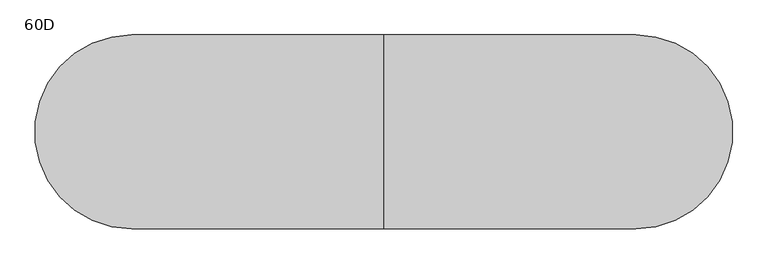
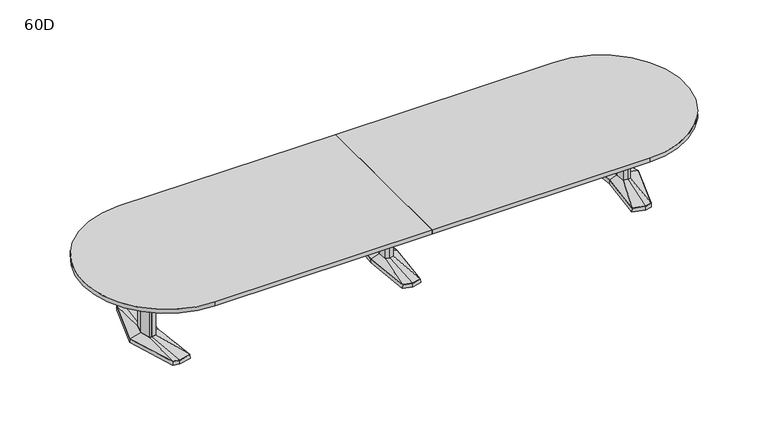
"""IFC4 building model written with IfcOpenShell, lengths in millimetres: furniture geometry, Coalesse_AM_Table_Conference_ETable2_Racetrack_18ft_AluminiumBase : 60D."""

from ifc_helpers import new_model, si_unit, point, frame, frame_2d, origin, place, context, project, spatial, polyline, circle_curve, trimmed, segment, composite_curve, outline, extrude, faceted_brep, source, transform, mapped, element, save
from ifc_brep_helpers import plane_surface, spline_surface, advanced_brep


def furniture_60d_119e4f8b(model_context):
    return source(origin(), model_context, "Body", "SolidModel", [
        faceted_brep([(-81.2333791, -433.8053819, 38.1), (0.0, -455.556576, 38.1), (81.2333791, -433.8053819, 38.1), (119.0564774, 0.0, 38.1), (81.2333791, 433.8053819, 38.1), (0.0, 455.556576, 38.1), (-81.2333791, 433.8053819, 38.1), (-119.0564774, 0.0, 38.1), (-82.7182795, -435.0512063, 3.175), (-120.65, 0.0, 3.175), (-82.7182795, 435.0512063, 3.175), (0.0, 457.2, 3.175), (82.7182795, 435.0512063, 3.175), (120.65, 0.0, 3.175), (82.7182795, -435.0512063, 3.175), (0.0, -457.2, 3.175), (0.0, 429.2617927, 3.175), (-77.9676806, 408.3850278, 3.175), (-74.7019821, 382.9646737, 3.175), (0.0, 402.9670094, 3.175), (74.7019821, 382.9646737, 3.175), (77.9676806, 408.3850278, 3.175), (0.0, -429.2617927, 3.175), (77.9676806, -408.3850278, 3.175), (74.7019821, -382.9646737, 3.175), (0.0, -402.9670094, 3.175), (-74.7019821, -382.9646737, 3.175), (-77.9676806, -408.3850278, 3.175), (-71.8574262, 114.6326257, 3.175), (-82.5426076, 0.0, 3.175), (-71.8574262, -114.6326257, 3.175), (0.0, -133.8761372, 3.175), (71.8574262, -114.6326257, 3.175), (82.5426076, 0.0, 3.175), (71.8574262, 114.6326257, 3.175), (0.0, 133.8761372, 3.175), (0.0, 429.2617927, 0.0), (77.9676806, 408.3850278, 0.0), (74.7019821, 382.9646737, 0.0), (0.0, 402.9670094, 0.0), (-74.7019821, 382.9646737, 0.0), (-77.9676806, 408.3850278, 0.0), (0.0, -429.2617927, 0.0), (-77.9676806, -408.3850278, 0.0), (-74.7019821, -382.9646737, 0.0), (0.0, -402.9670094, 0.0), (74.7019821, -382.9646737, 0.0), (77.9676806, -408.3850278, 0.0), (-71.8574262, 114.6326257, 0.0), (0.0, 133.8761372, 0.0), (71.8574262, 114.6326257, 0.0), (82.5426076, 0.0, 0.0), (71.8574262, -114.6326257, 0.0), (0.0, -133.8761372, 0.0), (-71.8574262, -114.6326257, 0.0), (-82.5426076, 0.0, 0.0)], [[[0, 1, 2, 3, 4, 5, 6, 7]], [[8, 9, 10, 11, 12, 13, 14, 15], [16, 17, 18, 19, 20, 21], [22, 23, 24, 25, 26, 27], [28, 29, 30, 31, 32, 33, 34, 35]], [[1, 0, 8, 15]], [[2, 1, 15, 14]], [[3, 2, 14, 13]], [[4, 3, 13, 12]], [[5, 4, 12, 11]], [[6, 5, 11, 10]], [[7, 6, 10, 9]], [[0, 7, 9, 8]], [[36, 37, 38, 39, 40, 41]], [[42, 43, 44, 45, 46, 47]], [[48, 49, 50, 51, 52, 53, 54, 55]], [[36, 41, 17, 16]], [[41, 40, 18, 17]], [[40, 39, 19, 18]], [[39, 38, 20, 19]], [[38, 37, 21, 20]], [[37, 36, 16, 21]], [[42, 47, 23, 22]], [[47, 46, 24, 23]], [[46, 45, 25, 24]], [[45, 44, 26, 25]], [[44, 43, 27, 26]], [[43, 42, 22, 27]], [[48, 55, 29, 28]], [[55, 54, 30, 29]], [[54, 53, 31, 30]], [[53, 52, 32, 31]], [[52, 51, 33, 32]], [[51, 50, 34, 33]], [[50, 49, 35, 34]], [[49, 48, 28, 35]]]),
        faceted_brep([(-36.3832834, 84.6900825, 698.5), (-44.2774487, 0.0, 698.5), (-36.3832834, -84.6900825, 698.5), (0.0, -94.4335728, 698.5), (36.3832834, -84.6900825, 698.5), (44.2774487, 0.0, 698.5), (36.3832834, 84.6900825, 698.5), (0.0, 94.4335728, 698.5), (-36.3832834, 84.6900825, 63.5), (0.0, 94.4335728, 63.5), (36.3832834, 84.6900825, 63.5), (44.2774487, 0.0, 63.5), (36.3832834, -84.6900825, 63.5), (0.0, -94.4335728, 63.5), (-36.3832834, -84.6900825, 63.5), (-44.2774487, 0.0, 63.5)], [[[0, 1, 2, 3, 4, 5, 6, 7]], [[8, 9, 10, 11, 12, 13, 14, 15]], [[1, 0, 8, 15]], [[2, 1, 15, 14]], [[3, 2, 14, 13]], [[4, 3, 13, 12]], [[5, 4, 12, 11]], [[6, 5, 11, 10]], [[7, 6, 10, 9]], [[0, 7, 9, 8]]]),
        advanced_brep(
        [(-36.3832834, 84.6900825, 63.5), (-44.2774487, 0.0, 63.5), (-36.3832834, -84.6900825, 63.5), (0.0, -94.4335728, 63.5), (36.3832834, -84.6900825, 63.5), (44.2774487, 0.0, 63.5), (36.3832834, 84.6900825, 63.5), (0.0, 94.4335728, 63.5), (-81.2333791, 433.8053819, 38.1), (0.0, 455.556576, 38.1), (81.2333791, 433.8053819, 38.1), (119.0564774, 0.0, 38.1), (81.2333791, -433.8053819, 38.1), (0.0, -455.556576, 38.1), (-81.2333791, -433.8053819, 38.1), (-119.0564774, 0.0, 38.1)],
        [
            (0, 1),
            (1, 2),
            (2, 3),
            (3, 4),
            (4, 5),
            (5, 6),
            (6, 7),
            (7, 0),
            (8, 9),
            (9, 10),
            (10, 11),
            (11, 12),
            (12, 13),
            (13, 14),
            (14, 15),
            (15, 8),
            (15, 1),
            (0, 8),
            (14, 2),
            (13, 3),
            (12, 4),
            (11, 5),
            (10, 6),
            (9, 7),
        ],
        [
            plane_surface(frame((0.0, 0.0, 63.5), z_axis=(0.0, 0.0, 1.0000000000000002), x_axis=(-0.9659615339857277, -0.25868574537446, 0.0))),
            plane_surface(frame((0.0, 0.0, 38.1), z_axis=(0.0, 0.0, -1.0000000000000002), x_axis=(-0.9659615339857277, -0.25868574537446, 0.0))),
            spline_surface(1, 1, [[(-81.2333791, 433.8053819, 38.1), (-36.3832834, 84.6900825, 63.5)], [(-119.0564774, 0.0, 38.1), (-44.2774487, 0.0, 63.5)]], [2, 2], [2, 2], [0.0, 1.0], [0.0, 1.0]),
            spline_surface(1, 1, [[(-119.0564774, 0.0, 38.1), (-44.2774487, 0.0, 63.5)], [(-81.2333791, -433.8053819, 38.1), (-36.3832834, -84.6900825, 63.5)]], [2, 2], [2, 2], [0.0, 1.0], [0.0, 1.0]),
            spline_surface(1, 1, [[(-81.2333791, -433.8053819, 38.1), (-36.3832834, -84.6900825, 63.5)], [(0.0, -455.556576, 38.1), (0.0, -94.4335728, 63.5)]], [2, 2], [2, 2], [0.0, 1.0], [0.0, 1.0]),
            spline_surface(1, 1, [[(0.0, -455.556576, 38.1), (0.0, -94.4335728, 63.5)], [(81.2333791, -433.8053819, 38.1), (36.3832834, -84.6900825, 63.5)]], [2, 2], [2, 2], [0.0, 1.0], [0.0, 1.0]),
            spline_surface(1, 1, [[(81.2333791, -433.8053819, 38.1), (36.3832834, -84.6900825, 63.5)], [(119.0564774, 0.0, 38.1), (44.2774487, 0.0, 63.5)]], [2, 2], [2, 2], [0.0, 1.0], [0.0, 1.0]),
            spline_surface(1, 1, [[(119.0564774, 0.0, 38.1), (44.2774487, 0.0, 63.5)], [(81.2333791, 433.8053819, 38.1), (36.3832834, 84.6900825, 63.5)]], [2, 2], [2, 2], [0.0, 1.0], [0.0, 1.0]),
            spline_surface(1, 1, [[(81.2333791, 433.8053819, 38.1), (36.3832834, 84.6900825, 63.5)], [(0.0, 455.556576, 38.1), (0.0, 94.4335728, 63.5)]], [2, 2], [2, 2], [0.0, 1.0], [0.0, 1.0]),
            spline_surface(1, 1, [[(0.0, 455.556576, 38.1), (0.0, 94.4335728, 63.5)], [(-81.2333791, 433.8053819, 38.1), (-36.3832834, 84.6900825, 63.5)]], [2, 2], [2, 2], [0.0, 1.0], [0.0, 1.0]),
        ],
        [
            (0, [[1, 2, 3, 4, 5, 6, 7, 8]]),
            (1, [[9, 10, 11, 12, 13, 14, 15, 16]]),
            (2, [[-16, 17, -1, 18]]),
            (3, [[-15, 19, -2, -17]]),
            (4, [[-14, 20, -3, -19]]),
            (5, [[-13, 21, -4, -20]]),
            (6, [[-12, 22, -5, -21]]),
            (7, [[-11, 23, -6, -22]]),
            (8, [[-10, 24, -7, -23]]),
            (9, [[-9, -18, -8, -24]]),
        ],
    ),
        faceted_brep([(2125.0306835, 455.5848221, 38.1), (2015.4531277, 426.2263816, 38.1), (2056.6163717, 0.0, 38.1), (2015.4531277, -426.2263816, 38.1), (2125.0306835, -455.5848221, 38.1), (2181.1570396, -440.5478297, 38.1), (2318.4684269, 0.0, 38.1), (2181.1570396, 440.5478297, 38.1), (2125.0306754, 457.2283104, 3.175), (2182.4124472, 441.8549756, 3.175), (2320.13125, 0.0, 3.175), (2182.4124472, -441.8549756, 3.175), (2125.0306754, -457.2283104, 3.175), (2013.74375, -427.4118891, 3.175), (2055.0214856, 0.0, 3.175), (2013.74375, 427.4118891, 3.175), (2128.620115, 428.3273875, 3.175), (2023.5718228, 402.1057253, 3.175), (2031.690518, 377.985069, 3.175), (2132.2095466, 401.0699529, 3.175), (2182.7691725, 387.524361, 3.175), (2181.9631061, 414.0360954, 3.175), (2128.620115, -428.3273875, 3.175), (2181.9631061, -414.0360954, 3.175), (2182.7691725, -387.524361, 3.175), (2132.2095466, -401.0699529, 3.175), (2031.690518, -377.985069, 3.175), (2023.5718228, -402.1057253, 3.175), (2255.2153621, 0.0, 3.175), (2222.9459611, 120.4193755, 3.175), (2174.2987222, 133.471665, 3.175), (2094.4180526, 119.4176561, 3.175), (2083.2868466, 0.0, 3.175), (2094.4180526, -119.4176561, 3.175), (2174.2987222, -133.471665, 3.175), (2222.9459611, -120.4193755, 3.175), (2128.620115, 428.3273875, 0.0), (2181.9631061, 414.0360954, 0.0), (2182.7691725, 387.524361, 0.0), (2132.2095466, 401.0699529, 0.0), (2031.690518, 377.985069, 0.0), (2023.5718228, 402.1057253, 0.0), (2128.620115, -428.3273875, 0.0), (2023.5718228, -402.1057253, 0.0), (2031.690518, -377.985069, 0.0), (2132.2095466, -401.0699529, 0.0), (2182.7691725, -387.524361, 0.0), (2181.9631061, -414.0360954, 0.0), (2255.2153621, 0.0, 0.0), (2222.9459611, -120.4193755, 0.0), (2174.2987222, -133.471665, 0.0), (2094.4180526, -119.4176561, 0.0), (2083.2868466, 0.0, 0.0), (2094.4180526, 119.4176561, 0.0), (2174.2987222, 133.471665, 0.0), (2222.9459611, 120.4193755, 0.0)], [[[0, 1, 2, 3, 4, 5, 6, 7]], [[8, 9, 10, 11, 12, 13, 14, 15], [16, 17, 18, 19, 20, 21], [22, 23, 24, 25, 26, 27], [28, 29, 30, 31, 32, 33, 34, 35]], [[7, 9, 8, 0]], [[6, 10, 9, 7]], [[5, 11, 10, 6]], [[4, 12, 11, 5]], [[3, 13, 12, 4]], [[2, 14, 13, 3]], [[1, 15, 14, 2]], [[0, 8, 15, 1]], [[36, 37, 38, 39, 40, 41]], [[42, 43, 44, 45, 46, 47]], [[48, 49, 50, 51, 52, 53, 54, 55]], [[36, 16, 21, 37]], [[37, 21, 20, 38]], [[38, 20, 19, 39]], [[39, 19, 18, 40]], [[40, 18, 17, 41]], [[41, 17, 16, 36]], [[42, 22, 27, 43]], [[43, 27, 26, 44]], [[44, 26, 25, 45]], [[45, 25, 24, 46]], [[46, 24, 23, 47]], [[47, 23, 22, 42]], [[48, 28, 35, 49]], [[49, 35, 34, 50]], [[50, 34, 33, 51]], [[51, 33, 32, 52]], [[52, 32, 31, 53]], [[53, 31, 30, 54]], [[54, 30, 29, 55]], [[55, 29, 28, 48]]]),
        faceted_brep([(2215.7710836, 0.0, 698.5), (2191.8358546, 89.3188359, 698.5), (2174.9824984, 93.8406728, 698.5), (2172.5826511, 94.4845635, 698.5), (2129.655146, 86.9320037, 698.5), (2121.5520056, 0.0, 698.5), (2129.655146, -86.9320037, 698.5), (2172.5826511, -94.4845635, 698.5), (2174.9824984, -93.8406728, 698.5), (2191.8358546, -89.3188359, 698.5), (2215.7710836, 0.0, 63.5), (2191.8358546, -89.3188359, 63.5), (2174.9824984, -93.8406728, 63.5), (2172.5826511, -94.4845635, 63.5), (2129.655146, -86.9320037, 63.5), (2121.5520056, 0.0, 63.5), (2129.655146, 86.9320037, 63.5), (2172.5826511, 94.4845635, 63.5), (2174.9824984, 93.8406728, 63.5), (2191.8358546, 89.3188359, 63.5)], [[[0, 1, 2, 3, 4, 5, 6, 7, 8, 9]], [[10, 11, 12, 13, 14, 15, 16, 17, 18, 19]], [[9, 11, 10, 0]], [[8, 12, 11, 9]], [[7, 13, 12, 8]], [[6, 14, 13, 7]], [[5, 15, 14, 6]], [[4, 16, 15, 5]], [[3, 17, 16, 4]], [[2, 18, 17, 3]], [[1, 19, 18, 2]], [[0, 10, 19, 1]]]),
        advanced_brep(
        [(2172.5826511, 94.4845635, 63.5), (2129.655146, 86.9320037, 63.5), (2121.5520056, 0.0, 63.5), (2129.655146, -86.9320037, 63.5), (2172.5826511, -94.4845635, 63.5), (2191.8358546, -89.3188359, 63.5), (2215.7710836, 0.0, 63.5), (2191.8358546, 89.3188359, 63.5), (2125.0306835, 455.5848221, 38.1), (2181.1570396, 440.5478297, 38.1), (2318.4684269, 0.0, 38.1), (2181.1570396, -440.5478297, 38.1), (2125.0306835, -455.5848221, 38.1), (2015.4531277, -426.2263816, 38.1), (2056.6163717, 0.0, 38.1), (2015.4531277, 426.2263816, 38.1)],
        [
            (0, 1),
            (1, 2),
            (2, 3),
            (3, 4),
            (4, 5),
            (5, 6),
            (6, 7),
            (7, 0),
            (8, 9),
            (9, 10),
            (10, 11),
            (11, 12),
            (12, 13),
            (13, 14),
            (14, 15),
            (15, 8),
            (8, 0),
            (7, 9),
            (6, 10),
            (5, 11),
            (4, 12),
            (3, 13),
            (2, 14),
            (1, 15),
        ],
        [
            plane_surface(frame((2165.6837991, 0.0, 63.5), z_axis=(0.0, 0.0, 1.0), x_axis=(-0.25884244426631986, -0.9659195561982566, 0.0))),
            plane_surface(frame((2127.2958125, 0.0, 38.1), z_axis=(0.0, 0.0, -1.0), x_axis=(-0.25884244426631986, -0.9659195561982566, 0.0))),
            spline_surface(1, 1, [[(2125.0306835, 455.5848221, 38.1), (2181.1570396, 440.5478297, 38.1)], [(2172.5826511, 94.4845635, 63.5), (2191.8358546, 89.3188359, 63.5)]], [2, 2], [2, 2], [0.0, 1.0], [0.0, 1.0]),
            spline_surface(1, 1, [[(2181.1570396, 440.5478297, 38.1), (2318.4684269, 0.0, 38.1)], [(2191.8358546, 89.3188359, 63.5), (2215.7710836, 0.0, 63.5)]], [2, 2], [2, 2], [0.0, 1.0], [0.0, 1.0]),
            spline_surface(1, 1, [[(2318.4684269, 0.0, 38.1), (2181.1570396, -440.5478297, 38.1)], [(2215.7710836, 0.0, 63.5), (2191.8358546, -89.3188359, 63.5)]], [2, 2], [2, 2], [0.0, 1.0], [0.0, 1.0]),
            spline_surface(1, 1, [[(2181.1570396, -440.5478297, 38.1), (2125.0306835, -455.5848221, 38.1)], [(2191.8358546, -89.3188359, 63.5), (2172.5826511, -94.4845635, 63.5)]], [2, 2], [2, 2], [0.0, 1.0], [0.0, 1.0]),
            spline_surface(1, 1, [[(2125.0306835, -455.5848221, 38.1), (2015.4531277, -426.2263816, 38.1)], [(2172.5826511, -94.4845635, 63.5), (2129.655146, -86.9320037, 63.5)]], [2, 2], [2, 2], [0.0, 1.0], [0.0, 1.0]),
            spline_surface(1, 1, [[(2015.4531277, -426.2263816, 38.1), (2056.6163717, 0.0, 38.1)], [(2129.655146, -86.9320037, 63.5), (2121.5520056, 0.0, 63.5)]], [2, 2], [2, 2], [0.0, 1.0], [0.0, 1.0]),
            spline_surface(1, 1, [[(2056.6163717, 0.0, 38.1), (2015.4531277, 426.2263816, 38.1)], [(2121.5520056, 0.0, 63.5), (2129.655146, 86.9320037, 63.5)]], [2, 2], [2, 2], [0.0, 1.0], [0.0, 1.0]),
            spline_surface(1, 1, [[(2015.4531277, 426.2263816, 38.1), (2125.0306835, 455.5848221, 38.1)], [(2129.655146, 86.9320037, 63.5), (2172.5826511, 94.4845635, 63.5)]], [2, 2], [2, 2], [0.0, 1.0], [0.0, 1.0]),
        ],
        [
            (0, [[1, 2, 3, 4, 5, 6, 7, 8]]),
            (1, [[9, 10, 11, 12, 13, 14, 15, 16]]),
            (2, [[17, -8, 18, -9]]),
            (3, [[-18, -7, 19, -10]]),
            (4, [[-19, -6, 20, -11]]),
            (5, [[-20, -5, 21, -12]]),
            (6, [[-21, -4, 22, -13]]),
            (7, [[-22, -3, 23, -14]]),
            (8, [[-23, -2, 24, -15]]),
            (9, [[-24, -1, -17, -16]]),
        ],
    ),
        faceted_brep([(-2125.0306835, 455.5848221, 38.1), (-2181.1570396, 440.5478297, 38.1), (-2318.4684269, 0.0, 38.1), (-2181.1570396, -440.5478297, 38.1), (-2125.0306835, -455.5848221, 38.1), (-2015.4531277, -426.2263816, 38.1), (-2056.6163717, 0.0, 38.1), (-2015.4531277, 426.2263816, 38.1), (-2125.0306754, 457.2283104, 3.175), (-2013.74375, 427.4118891, 3.175), (-2055.0214856, 0.0, 3.175), (-2013.74375, -427.4118891, 3.175), (-2125.0306754, -457.2283104, 3.175), (-2182.4124472, -441.8549756, 3.175), (-2320.13125, 0.0, 3.175), (-2182.4124472, 441.8549756, 3.175), (-2128.620115, 428.3273875, 3.175), (-2181.9631061, 414.0360954, 3.175), (-2182.7691725, 387.524361, 3.175), (-2132.2095466, 401.0699529, 3.175), (-2031.690518, 377.985069, 3.175), (-2023.5718228, 402.1057253, 3.175), (-2128.620115, -428.3273875, 3.175), (-2023.5718228, -402.1057253, 3.175), (-2031.690518, -377.985069, 3.175), (-2132.2095466, -401.0699529, 3.175), (-2182.7691725, -387.524361, 3.175), (-2181.9631061, -414.0360954, 3.175), (-2255.2153621, 0.0, 3.175), (-2222.9459611, -120.4193755, 3.175), (-2174.2987222, -133.471665, 3.175), (-2094.4180526, -119.4176561, 3.175), (-2083.2868466, 0.0, 3.175), (-2094.4180526, 119.4176561, 3.175), (-2174.2987222, 133.471665, 3.175), (-2222.9459611, 120.4193755, 3.175), (-2128.620115, 428.3273875, 0.0), (-2023.5718228, 402.1057253, 0.0), (-2031.690518, 377.985069, 0.0), (-2132.2095466, 401.0699529, 0.0), (-2182.7691725, 387.524361, 0.0), (-2181.9631061, 414.0360954, 0.0), (-2128.620115, -428.3273875, 0.0), (-2181.9631061, -414.0360954, 0.0), (-2182.7691725, -387.524361, 0.0), (-2132.2095466, -401.0699529, 0.0), (-2031.690518, -377.985069, 0.0), (-2023.5718228, -402.1057253, 0.0), (-2255.2153621, 0.0, 0.0), (-2222.9459611, 120.4193755, 0.0), (-2174.2987222, 133.471665, 0.0), (-2094.4180526, 119.4176561, 0.0), (-2083.2868466, 0.0, 0.0), (-2094.4180526, -119.4176561, 0.0), (-2174.2987222, -133.471665, 0.0), (-2222.9459611, -120.4193755, 0.0)], [[[0, 1, 2, 3, 4, 5, 6, 7]], [[8, 9, 10, 11, 12, 13, 14, 15], [16, 17, 18, 19, 20, 21], [22, 23, 24, 25, 26, 27], [28, 29, 30, 31, 32, 33, 34, 35]], [[1, 0, 8, 15]], [[2, 1, 15, 14]], [[3, 2, 14, 13]], [[4, 3, 13, 12]], [[5, 4, 12, 11]], [[6, 5, 11, 10]], [[7, 6, 10, 9]], [[0, 7, 9, 8]], [[36, 37, 38, 39, 40, 41]], [[42, 43, 44, 45, 46, 47]], [[48, 49, 50, 51, 52, 53, 54, 55]], [[36, 41, 17, 16]], [[41, 40, 18, 17]], [[40, 39, 19, 18]], [[39, 38, 20, 19]], [[38, 37, 21, 20]], [[37, 36, 16, 21]], [[42, 47, 23, 22]], [[47, 46, 24, 23]], [[46, 45, 25, 24]], [[45, 44, 26, 25]], [[44, 43, 27, 26]], [[43, 42, 22, 27]], [[48, 55, 29, 28]], [[55, 54, 30, 29]], [[54, 53, 31, 30]], [[53, 52, 32, 31]], [[52, 51, 33, 32]], [[51, 50, 34, 33]], [[50, 49, 35, 34]], [[49, 48, 28, 35]]]),
        faceted_brep([(-2215.7710836, 0.0, 698.5), (-2191.8358546, -89.3188359, 698.5), (-2174.9824984, -93.8406728, 698.5), (-2172.5826511, -94.4845635, 698.5), (-2129.655146, -86.9320037, 698.5), (-2121.5520056, 0.0, 698.5), (-2129.655146, 86.9320037, 698.5), (-2172.5826511, 94.4845635, 698.5), (-2174.9824984, 93.8406728, 698.5), (-2191.8358546, 89.3188359, 698.5), (-2215.7710836, 0.0, 63.5), (-2191.8358546, 89.3188359, 63.5), (-2174.9824984, 93.8406728, 63.5), (-2172.5826511, 94.4845635, 63.5), (-2129.655146, 86.9320037, 63.5), (-2121.5520056, 0.0, 63.5), (-2129.655146, -86.9320037, 63.5), (-2172.5826511, -94.4845635, 63.5), (-2174.9824984, -93.8406728, 63.5), (-2191.8358546, -89.3188359, 63.5)], [[[0, 1, 2, 3, 4, 5, 6, 7, 8, 9]], [[10, 11, 12, 13, 14, 15, 16, 17, 18, 19]], [[1, 0, 10, 19]], [[2, 1, 19, 18]], [[3, 2, 18, 17]], [[4, 3, 17, 16]], [[5, 4, 16, 15]], [[6, 5, 15, 14]], [[7, 6, 14, 13]], [[8, 7, 13, 12]], [[9, 8, 12, 11]], [[0, 9, 11, 10]]]),
        advanced_brep(
        [(-2172.5826511, 94.4845635, 63.5), (-2191.8358546, 89.3188359, 63.5), (-2215.7710836, 0.0, 63.5), (-2191.8358546, -89.3188359, 63.5), (-2172.5826511, -94.4845635, 63.5), (-2129.655146, -86.9320037, 63.5), (-2121.5520056, 0.0, 63.5), (-2129.655146, 86.9320037, 63.5), (-2125.0306835, 455.5848221, 38.1), (-2015.4531277, 426.2263816, 38.1), (-2056.6163717, 0.0, 38.1), (-2015.4531277, -426.2263816, 38.1), (-2125.0306835, -455.5848221, 38.1), (-2181.1570396, -440.5478297, 38.1), (-2318.4684269, 0.0, 38.1), (-2181.1570396, 440.5478297, 38.1)],
        [
            (0, 1),
            (1, 2),
            (2, 3),
            (3, 4),
            (4, 5),
            (5, 6),
            (6, 7),
            (7, 0),
            (8, 9),
            (9, 10),
            (10, 11),
            (11, 12),
            (12, 13),
            (13, 14),
            (14, 15),
            (15, 8),
            (15, 1),
            (0, 8),
            (14, 2),
            (13, 3),
            (12, 4),
            (11, 5),
            (10, 6),
            (9, 7),
        ],
        [
            plane_surface(frame((-2165.6837991, 0.0, 63.5), z_axis=(0.0, 0.0, 1.0), x_axis=(0.25884244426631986, -0.9659195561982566, 0.0))),
            plane_surface(frame((-2127.2958125, 0.0, 38.1), z_axis=(0.0, 0.0, -1.0), x_axis=(0.25884244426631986, -0.9659195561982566, 0.0))),
            spline_surface(1, 1, [[(-2125.0306835, 455.5848221, 38.1), (-2172.5826511, 94.4845635, 63.5)], [(-2181.1570396, 440.5478297, 38.1), (-2191.8358546, 89.3188359, 63.5)]], [2, 2], [2, 2], [0.0, 1.0], [0.0, 1.0]),
            spline_surface(1, 1, [[(-2181.1570396, 440.5478297, 38.1), (-2191.8358546, 89.3188359, 63.5)], [(-2318.4684269, 0.0, 38.1), (-2215.7710836, 0.0, 63.5)]], [2, 2], [2, 2], [0.0, 1.0], [0.0, 1.0]),
            spline_surface(1, 1, [[(-2318.4684269, 0.0, 38.1), (-2215.7710836, 0.0, 63.5)], [(-2181.1570396, -440.5478297, 38.1), (-2191.8358546, -89.3188359, 63.5)]], [2, 2], [2, 2], [0.0, 1.0], [0.0, 1.0]),
            spline_surface(1, 1, [[(-2181.1570396, -440.5478297, 38.1), (-2191.8358546, -89.3188359, 63.5)], [(-2125.0306835, -455.5848221, 38.1), (-2172.5826511, -94.4845635, 63.5)]], [2, 2], [2, 2], [0.0, 1.0], [0.0, 1.0]),
            spline_surface(1, 1, [[(-2125.0306835, -455.5848221, 38.1), (-2172.5826511, -94.4845635, 63.5)], [(-2015.4531277, -426.2263816, 38.1), (-2129.655146, -86.9320037, 63.5)]], [2, 2], [2, 2], [0.0, 1.0], [0.0, 1.0]),
            spline_surface(1, 1, [[(-2015.4531277, -426.2263816, 38.1), (-2129.655146, -86.9320037, 63.5)], [(-2056.6163717, 0.0, 38.1), (-2121.5520056, 0.0, 63.5)]], [2, 2], [2, 2], [0.0, 1.0], [0.0, 1.0]),
            spline_surface(1, 1, [[(-2056.6163717, 0.0, 38.1), (-2121.5520056, 0.0, 63.5)], [(-2015.4531277, 426.2263816, 38.1), (-2129.655146, 86.9320037, 63.5)]], [2, 2], [2, 2], [0.0, 1.0], [0.0, 1.0]),
            spline_surface(1, 1, [[(-2015.4531277, 426.2263816, 38.1), (-2129.655146, 86.9320037, 63.5)], [(-2125.0306835, 455.5848221, 38.1), (-2172.5826511, 94.4845635, 63.5)]], [2, 2], [2, 2], [0.0, 1.0], [0.0, 1.0]),
        ],
        [
            (0, [[1, 2, 3, 4, 5, 6, 7, 8]]),
            (1, [[9, 10, 11, 12, 13, 14, 15, 16]]),
            (2, [[-16, 17, -1, 18]]),
            (3, [[-15, 19, -2, -17]]),
            (4, [[-14, 20, -3, -19]]),
            (5, [[-13, 21, -4, -20]]),
            (6, [[-12, 22, -5, -21]]),
            (7, [[-11, 23, -6, -22]]),
            (8, [[-10, 24, -7, -23]]),
            (9, [[-9, -18, -8, -24]]),
        ],
    ),
        extrude(outline(polyline([(96.8375, 698.5), (103.1875, 698.5), (103.1875, 476.25), (-103.1875, 476.25), (-103.1875, 698.5), (-96.8375, 698.5), (-96.8375, 482.6), (96.8375, 482.6), (96.8375, 698.5)])), frame((44.2774487, 0.0, 0.0), z_axis=(1.0, 0.0, 0.0), x_axis=(0.0, 1.0, 0.0)), (0.0, 0.0, 1.0), 2077.4163013),
        extrude(outline(composite_curve([segment(trimmed(circle_curve(frame_2d((1981.2, 0.0)), 762.0), [point((1981.2, 762.0))], [point((1981.2, -762.0))], False, "CARTESIAN"), True, "CONTINUOUS"), segment(polyline([(1981.2, -762.0), (0.0, -762.0), (0.0, 762.0), (1981.2, 762.0)]), True, "CONTINUOUS")], self_intersect=False)), frame((0.0, 0.0, 698.5), z_axis=(0.0, 0.0, 1.0), x_axis=(1.0, 0.0, 0.0)), (0.0, 0.0, 1.0), 38.1),
        extrude(outline(composite_curve([segment(polyline([(0.0, 762.0), (0.0, -762.0), (-1981.2, -762.0)]), True, "CONTINUOUS"), segment(trimmed(circle_curve(frame_2d((-1981.2, 0.0)), 762.0), [point((-1981.2, -762.0))], [point((-1981.2, 762.0))], False, "CARTESIAN"), True, "CONTINUOUS"), segment(polyline([(-1981.2, 762.0), (0.0, 762.0)]), True, "CONTINUOUS")], self_intersect=False)), frame((0.0, 0.0, 698.5), z_axis=(0.0, 0.0, 1.0), x_axis=(1.0, 0.0, 0.0)), (0.0, 0.0, 1.0), 38.1),
        extrude(outline(polyline([(96.8375, 698.5), (103.1875, 698.5), (103.1875, 476.25), (-103.1875, 476.25), (-103.1875, 698.5), (-96.8375, 698.5), (-96.8375, 482.6), (96.8375, 482.6), (96.8375, 698.5)])), frame((-2121.69375, 0.0, 0.0), z_axis=(1.0, 0.0, 0.0), x_axis=(0.0, 1.0, 0.0)), (0.0, 0.0, 1.0), 2077.4163013),
    ])


if __name__ == "__main__":
    model = new_model("IFC4")
    model_context = context("Model", 3, world=origin())
    ifc_project = project(units=[si_unit("LENGTHUNIT", "METRE", prefix="MILLI")], contexts=[model_context])
    site = spatial("IfcSite", under=ifc_project)
    building = spatial("IfcBuilding", under=site)
    placement = place(None, origin())
    furniture_60d_shape = furniture_60d_119e4f8b(model_context)
    element("IfcFurniture", 1, ObjectType="Coalesse_AM_Table_Conference_ETable2_Racetrack_18ft_AluminiumBase : 60D", at=placement, inside=building, context=model_context, shape_type="MappedRepresentation", body=[
        mapped(furniture_60d_shape, transform((0.0, 0.0, 0.0), x_axis=(1.0, 0.0, 0.0), y_axis=(0.0, 1.0, 0.0), z_axis=(0.0, 0.0, 1.0))),
    ])
    save(model, "model.ifc")
